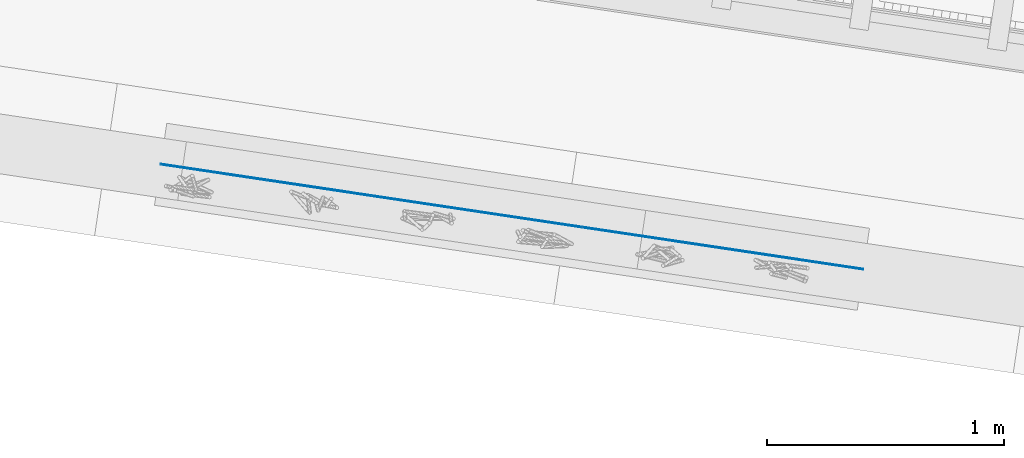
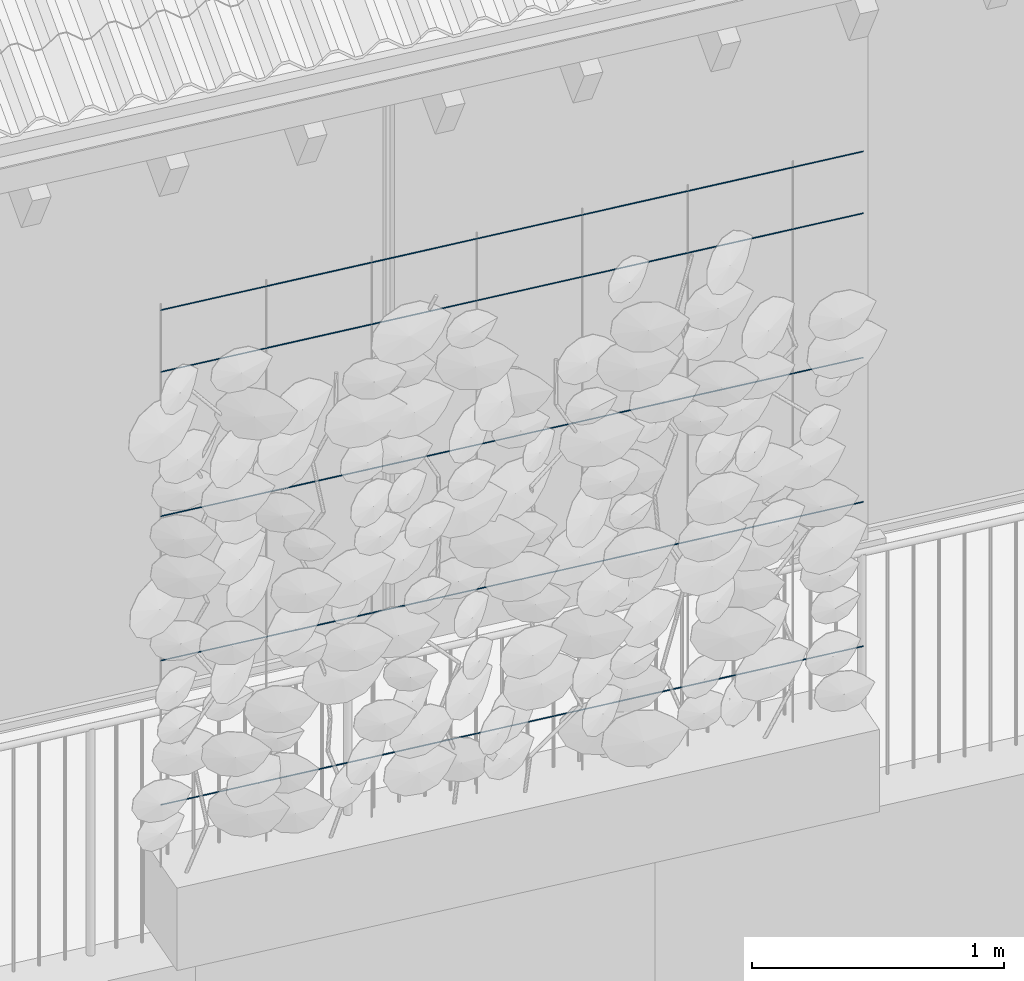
# One storey, part 53 of 128: 5 members, 1 element without a shape of its own.
"""IFC4 building model written with IfcOpenShell, lengths in metres."""

from ifc_helpers import new_model, si_unit, direction, frame, origin_with_axes, place, context, subcontext, project, spatial, circle, extrude, material, material_profile, profile_set, profile_usage, type_object, element, aggregate, save


model = new_model("IFC4")

# Units and contexts
model_context = context("Model", 3, precision=1e-05, world=origin_with_axes(), true_north=direction((0.0, 1.0)))
body_context = subcontext(model_context, "Body", "Model", "MODEL_VIEW")
ifc_project = project(units=[si_unit("VOLUMEUNIT", "CUBIC_METRE"), si_unit("LENGTHUNIT", "METRE"), si_unit("AREAUNIT", "SQUARE_METRE")], contexts=[model_context])

# Site, building, storey
site_placement = place(None, origin_with_axes())
site = spatial("IfcSite", under=ifc_project, at=site_placement, Name="Lares · Rua das Mercês · artigo 4771")
building_placement = place(site_placement, frame((15.0, 9.7, 13.9), z_axis=(0.0, 0.0, 1.0), x_axis=(0.989015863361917, -0.147809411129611, 0.0)))
building = spatial("IfcBuilding", under=site, at=building_placement, Name="Casa Sobreposta")
storey_placement = place(building_placement, origin_with_axes())
storey = spatial("IfcBuildingStorey", under=building, at=storey_placement, Name="00 · Habitação e estacionamento", Elevation=13.9)

# Assembly, members
assembly_placement = place(storey_placement, origin_with_axes())
assembly = element("IfcElementAssembly", 1, at=assembly_placement, inside=storey, Name="Fachada sul e pátio · estrutura e trepadeiras", ObjectType="LIVING_SHADE_TRELLIS", PredefinedType="USERDEFINED")
ifc_material = material(Name="Aço galvanizado / Stahl verzinkt", Category="steel")
ifc_material_profile = material_profile(ifc_material, circle(Radius=0.002))
ifc_profile_set = profile_set([ifc_material_profile], Name="D0.004")
ifc_profile_usage_1 = profile_usage(ifc_profile_set)
member_type = type_object("IfcMemberType", Name="D0.004 / galvanized", PredefinedType="NOTDEFINED", material=ifc_profile_set)
member_1_placement = place(assembly_placement, frame((8.5, -1.61, 0.65), z_axis=(1.0, 0.0, 0.0), x_axis=(0.0, -1.0, 0.0)))
member_1 = element("IfcMember", 2, at=member_1_placement, type_object=member_type, material=ifc_profile_usage_1, Name="Trepadeiras · fio horizontal", context=body_context, shape_type="SweptSolid", body=[
    extrude(circle(Radius=0.002), origin_with_axes(), (0.0, 0.0, 1.0), 3.0),
])
ifc_profile_usage_2 = profile_usage(ifc_profile_set)
member_2_placement = place(assembly_placement, frame((8.5, -1.61, 1.35), z_axis=(1.0, 0.0, 0.0), x_axis=(0.0, -1.0, 0.0)))
member_2 = element("IfcMember", 3, at=member_2_placement, type_object=member_type, material=ifc_profile_usage_2, Name="Trepadeiras · fio horizontal", context=body_context, shape_type="SweptSolid", body=[
    extrude(circle(Radius=0.002), origin_with_axes(), (0.0, 0.0, 1.0), 3.0),
])
ifc_profile_usage_3 = profile_usage(ifc_profile_set)
member_3_placement = place(assembly_placement, frame((8.5, -1.61, 2.05), z_axis=(1.0, 0.0, 0.0), x_axis=(0.0, -1.0, 0.0)))
member_3 = element("IfcMember", 4, at=member_3_placement, type_object=member_type, material=ifc_profile_usage_3, Name="Trepadeiras · fio horizontal", context=body_context, shape_type="SweptSolid", body=[
    extrude(circle(Radius=0.002), origin_with_axes(), (0.0, 0.0, 1.0), 3.0),
])
ifc_profile_usage_4 = profile_usage(ifc_profile_set)
member_4_placement = place(assembly_placement, frame((8.5, -1.61, 2.75), z_axis=(1.0, 0.0, 0.0), x_axis=(0.0, -1.0, 0.0)))
member_4 = element("IfcMember", 5, at=member_4_placement, type_object=member_type, material=ifc_profile_usage_4, Name="Trepadeiras · fio horizontal", context=body_context, shape_type="SweptSolid", body=[
    extrude(circle(Radius=0.002), origin_with_axes(), (0.0, 0.0, 1.0), 3.0),
])
ifc_profile_usage_5 = profile_usage(ifc_profile_set)
member_5_placement = place(assembly_placement, frame((8.5, -1.61, 3.05), z_axis=(1.0, 0.0, 0.0), x_axis=(0.0, -1.0, 0.0)))
member_5 = element("IfcMember", 6, at=member_5_placement, type_object=member_type, material=ifc_profile_usage_5, Name="Trepadeiras · fio horizontal", context=body_context, shape_type="SweptSolid", body=[
    extrude(circle(Radius=0.002), origin_with_axes(), (0.0, 0.0, 1.0), 3.0),
])
aggregate(assembly, [member_1, member_2, member_3, member_4, member_5])

save(model, "model.ifc")
